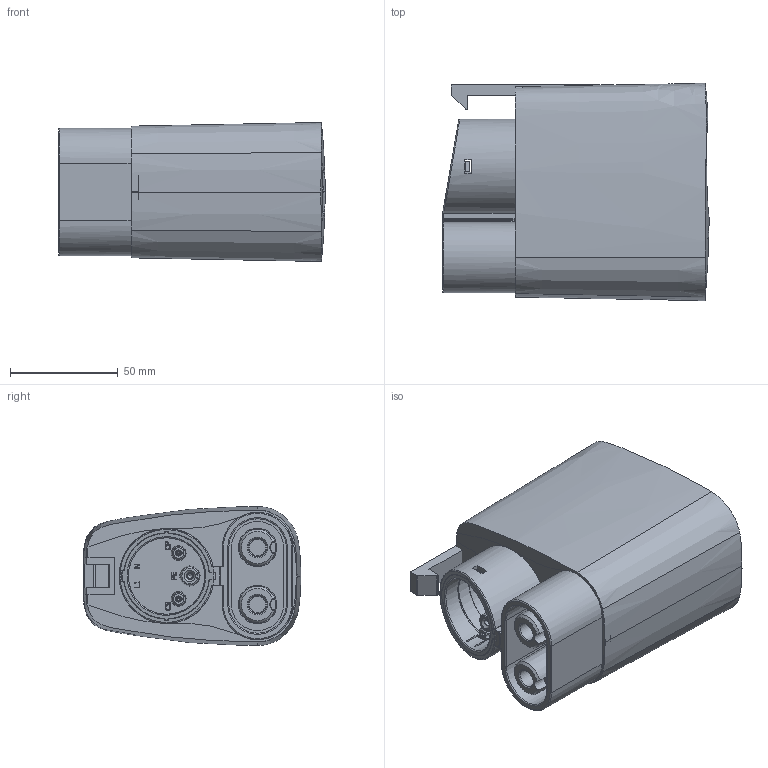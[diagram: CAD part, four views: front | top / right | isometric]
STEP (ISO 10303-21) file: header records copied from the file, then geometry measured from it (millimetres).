
FILE_DESCRIPTION(/* description */ (''),/* implementation_level */ '2;1');
FILE_NAME(/* name */ 'NACS to CCS Adapter v8.step',/* time_stamp */ '2024-11-02T23:03:40-07:00',/* author */ (''),/* organization */ (''),/* preprocessor_version */ 'ST-DEVELOPER v20',/* originating_system */ 'Autodesk Translation Framework v13.20.0.188',/* authorisation */ '');
FILE_SCHEMA (('AUTOMOTIVE_DESIGN { 1 0 10303 214 3 1 1 }'));
Products named in the file (13): NACS to CCS Adapter; REMA CCS1 by me; J1772 pin v1; S12-6500-540_ASM; HOOD; CONTACT; S12-3800-540_ASM; S12-3800-540_ASM_1; CONTACT16; HOOD16; DC pin v1; TS-0011139; TS-0011139_INLET
Assembly tree (15 placements, depth 5):
  NACS to CCS Adapter
    REMA CCS1 by me
      J1772 pin v1
        S12-6500-540_ASM
          HOOD
          CONTACT
        S12-3800-540_ASM
          CONTACT16
          HOOD16
        S12-3800-540_ASM_1
          CONTACT16
          HOOD16
      DC pin v1  x2
    TS-0011139
      TS-0011139_INLET
Bounding box: 123.49 x 100.69 x 64.38 mm (x, y, z)
Volume: 477288.5 mm3; surface area: 127049.4 mm2
Topology: 21 solids, 21 shells, 1141 faces, 2915 edges, 1826 vertices
Faces by surface type: plane 385, bspline 267, cylinder 193, torus 145, cone 142, sphere 9
Full cylindrical faces by diameter (mm): 1.575 x4, 1.676 x2, 1.727 x4, 1.8 x2, 1.93 x2, 2.101 x2, 2.438 x1, 2.515 x1, 2.642 x2, 2.7 x2, 2.743 x2, 2.946 x2, 3.099 x4, 3.1 x1, 3.124 x2, 3.3 x2, 3.454 x1, 3.48 x1, 3.556 x1, 3.575 x2, 3.632 x1, 3.785 x1, 3.988 x1, 4.851 x2, 5.15 x2, 6.5 x2, 8.45 x2, 8.975 x4, 12.643 x2, 16 x1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
Entity records: 52347 total; most frequent: CARTESIAN_POINT 29076, ORIENTED_EDGE 5068, DIRECTION 4413, EDGE_CURVE 2534, AXIS2_PLACEMENT_3D 1769, VERTEX_POINT 1595, EDGE_LOOP 1101, FACE_OUTER_BOUND 1013
